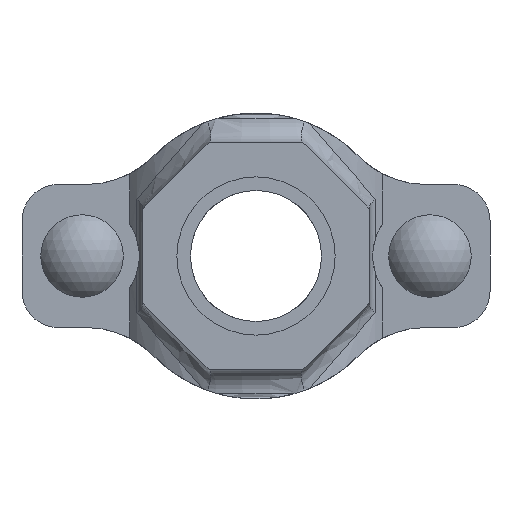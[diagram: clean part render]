
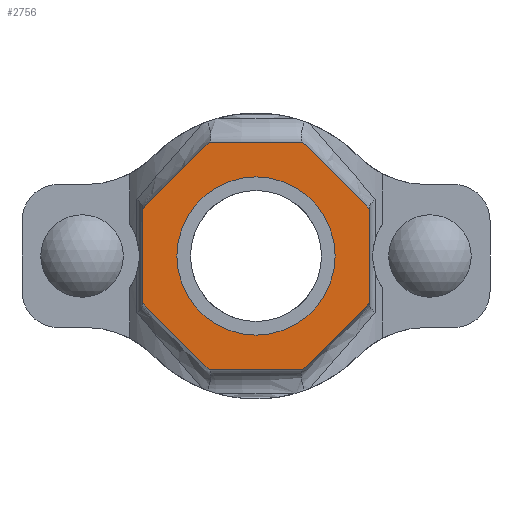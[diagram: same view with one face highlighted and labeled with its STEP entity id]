
A CAD part, front view. The second image highlights one B-rep face of the part: STEP entity #2756.
In plain terms, the highlighted planar face has unit normal (0, -1, 0) as drawn and (0, 1, 0) by its records, which use the part's own axes.
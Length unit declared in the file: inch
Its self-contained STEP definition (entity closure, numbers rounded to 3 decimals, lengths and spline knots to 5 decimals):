
#227=FACE_BOUND('',#517,.T.);
#356=FACE_OUTER_BOUND('',#516,.T.);
#516=EDGE_LOOP('',(#2332,#2333,#2334,#2335,#2336,#2337,#2338,#2339));
#517=EDGE_LOOP('',(#2340));
#659=LINE('',#5165,#849);
#662=LINE('',#5170,#852);
#664=LINE('',#5174,#854);
#666=LINE('',#5178,#856);
#702=LINE('',#5477,#892);
#704=LINE('',#5481,#894);
#706=LINE('',#5485,#896);
#708=LINE('',#5488,#898);
#849=VECTOR('',#3533,0.3937);
#852=VECTOR('',#3538,0.3937);
#854=VECTOR('',#3542,0.3937);
#856=VECTOR('',#3546,0.3937);
#892=VECTOR('',#3676,0.3937);
#894=VECTOR('',#3680,0.3937);
#896=VECTOR('',#3684,0.3937);
#898=VECTOR('',#3688,0.3937);
#985=CIRCLE('',#3031,0.83);
#1196=VERTEX_POINT('',#5162);
#1197=VERTEX_POINT('',#5164);
#1198=VERTEX_POINT('',#5168);
#1199=VERTEX_POINT('',#5172);
#1200=VERTEX_POINT('',#5176);
#1228=VERTEX_POINT('',#5338);
#1250=VERTEX_POINT('',#5476);
#1251=VERTEX_POINT('',#5480);
#1252=VERTEX_POINT('',#5484);
#1542=EDGE_CURVE('',#1197,#1196,#659,.T.);
#1545=EDGE_CURVE('',#1196,#1198,#662,.T.);
#1547=EDGE_CURVE('',#1198,#1199,#664,.T.);
#1549=EDGE_CURVE('',#1199,#1200,#666,.T.);
#1590=EDGE_CURVE('',#1228,#1228,#985,.T.);
#1620=EDGE_CURVE('',#1250,#1197,#702,.T.);
#1622=EDGE_CURVE('',#1251,#1250,#704,.T.);
#1624=EDGE_CURVE('',#1252,#1251,#706,.T.);
#1626=EDGE_CURVE('',#1200,#1252,#708,.T.);
#2332=ORIENTED_EDGE('',*,*,#1626,.T.);
#2333=ORIENTED_EDGE('',*,*,#1624,.T.);
#2334=ORIENTED_EDGE('',*,*,#1622,.T.);
#2335=ORIENTED_EDGE('',*,*,#1620,.T.);
#2336=ORIENTED_EDGE('',*,*,#1542,.T.);
#2337=ORIENTED_EDGE('',*,*,#1545,.T.);
#2338=ORIENTED_EDGE('',*,*,#1547,.T.);
#2339=ORIENTED_EDGE('',*,*,#1549,.T.);
#2340=ORIENTED_EDGE('',*,*,#1590,.T.);
#2477=PLANE('',#3052);
#2756=ADVANCED_FACE('',(#356,#227),#2477,.T.);
#3031=AXIS2_PLACEMENT_3D('',#5339,#3626,#3627);
#3052=AXIS2_PLACEMENT_3D('',#5489,#3689,#3690);
#3533=DIRECTION('',(0.,0.,1.));
#3538=DIRECTION('',(0.707,0.,0.707));
#3542=DIRECTION('',(1.,0.,0.));
#3546=DIRECTION('',(0.707,0.,-0.707));
#3626=DIRECTION('center_axis',(0.,-1.,0.));
#3627=DIRECTION('ref_axis',(-1.,0.,0.));
#3676=DIRECTION('',(-0.707,0.,0.707));
#3680=DIRECTION('',(-1.,0.,0.));
#3684=DIRECTION('',(-0.707,0.,-0.707));
#3688=DIRECTION('',(0.,0.,-1.));
#3689=DIRECTION('center_axis',(0.,1.,0.));
#3690=DIRECTION('ref_axis',(0.,0.,1.));
#5162=CARTESIAN_POINT('',(-1.19,2.75,0.49291));
#5164=CARTESIAN_POINT('',(-1.19,2.75,-0.49291));
#5165=CARTESIAN_POINT('',(-1.19,2.75,0.49291));
#5168=CARTESIAN_POINT('',(-0.49291,2.75,1.19));
#5170=CARTESIAN_POINT('',(-0.49291,2.75,1.19));
#5172=CARTESIAN_POINT('',(0.49291,2.75,1.19));
#5174=CARTESIAN_POINT('',(0.49291,2.75,1.19));
#5176=CARTESIAN_POINT('',(1.19,2.75,0.49291));
#5178=CARTESIAN_POINT('',(1.19,2.75,0.49291));
#5338=CARTESIAN_POINT('',(0.83,2.75,0.));
#5339=CARTESIAN_POINT('Origin',(0.,2.75,0.));
#5476=CARTESIAN_POINT('',(-0.49291,2.75,-1.19));
#5477=CARTESIAN_POINT('',(-1.19,2.75,-0.49291));
#5480=CARTESIAN_POINT('',(0.49291,2.75,-1.19));
#5481=CARTESIAN_POINT('',(-0.49291,2.75,-1.19));
#5484=CARTESIAN_POINT('',(1.19,2.75,-0.49291));
#5485=CARTESIAN_POINT('',(0.49291,2.75,-1.19));
#5488=CARTESIAN_POINT('',(1.19,2.75,-0.49291));
#5489=CARTESIAN_POINT('Origin',(0.,2.75,0.));
